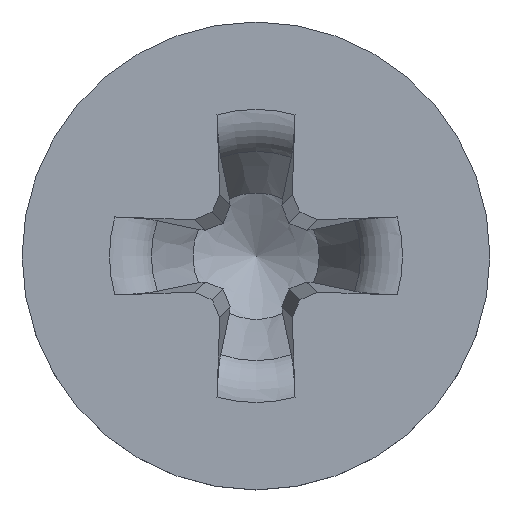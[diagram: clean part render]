
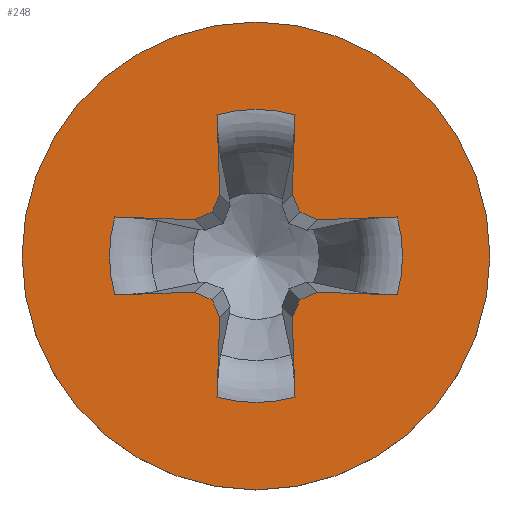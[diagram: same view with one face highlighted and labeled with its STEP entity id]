
A CAD part, top view. The second image highlights one B-rep face of the part: STEP entity #248.
In plain terms, the highlighted planar face has unit normal (0, 0, 1).
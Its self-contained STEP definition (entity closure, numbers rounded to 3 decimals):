
#73=PLANE('',#1237);
#91=LINE('',#2823,#154);
#92=LINE('',#2828,#155);
#93=LINE('',#2830,#156);
#94=LINE('',#2832,#157);
#95=LINE('',#2834,#158);
#96=LINE('',#2838,#159);
#97=LINE('',#2840,#160);
#98=LINE('',#2842,#161);
#99=LINE('',#2844,#162);
#100=LINE('',#2848,#163);
#101=LINE('',#2850,#164);
#102=LINE('',#2852,#165);
#103=LINE('',#2854,#166);
#104=LINE('',#2858,#167);
#105=LINE('',#2860,#168);
#106=LINE('',#2862,#169);
#154=VECTOR('',#1299,1.);
#155=VECTOR('',#1302,1.);
#156=VECTOR('',#1303,1.);
#157=VECTOR('',#1304,1.);
#158=VECTOR('',#1305,1.);
#159=VECTOR('',#1308,1.);
#160=VECTOR('',#1309,1.);
#161=VECTOR('',#1310,1.);
#162=VECTOR('',#1311,1.);
#163=VECTOR('',#1314,1.);
#164=VECTOR('',#1315,1.);
#165=VECTOR('',#1316,1.);
#166=VECTOR('',#1317,1.);
#167=VECTOR('',#1320,1.);
#168=VECTOR('',#1321,1.);
#169=VECTOR('',#1322,1.);
#225=FACE_BOUND('',#391,.T.);
#226=FACE_BOUND('',#392,.T.);
#248=ADVANCED_FACE('',(#225,#226),#73,.F.);
#391=EDGE_LOOP('',(#523));
#392=EDGE_LOOP('',(#524,#525,#526,#527,#528,#529,#530,#531,#532,#533,#534,
#535,#536,#537,#538,#539,#540,#541,#542,#543));
#470=CIRCLE('',#1232,1.5);
#471=CIRCLE('',#1233,0.94);
#472=CIRCLE('',#1234,0.94);
#473=CIRCLE('',#1235,0.94);
#474=CIRCLE('',#1236,0.94);
#523=ORIENTED_EDGE('',*,*,#988,.T.);
#524=ORIENTED_EDGE('',*,*,#989,.F.);
#525=ORIENTED_EDGE('',*,*,#990,.T.);
#526=ORIENTED_EDGE('',*,*,#991,.F.);
#527=ORIENTED_EDGE('',*,*,#992,.F.);
#528=ORIENTED_EDGE('',*,*,#993,.F.);
#529=ORIENTED_EDGE('',*,*,#994,.F.);
#530=ORIENTED_EDGE('',*,*,#995,.T.);
#531=ORIENTED_EDGE('',*,*,#996,.F.);
#532=ORIENTED_EDGE('',*,*,#997,.F.);
#533=ORIENTED_EDGE('',*,*,#998,.F.);
#534=ORIENTED_EDGE('',*,*,#999,.F.);
#535=ORIENTED_EDGE('',*,*,#1000,.T.);
#536=ORIENTED_EDGE('',*,*,#1001,.F.);
#537=ORIENTED_EDGE('',*,*,#1002,.F.);
#538=ORIENTED_EDGE('',*,*,#1003,.F.);
#539=ORIENTED_EDGE('',*,*,#1004,.F.);
#540=ORIENTED_EDGE('',*,*,#1005,.T.);
#541=ORIENTED_EDGE('',*,*,#1006,.F.);
#542=ORIENTED_EDGE('',*,*,#1007,.F.);
#543=ORIENTED_EDGE('',*,*,#1008,.F.);
#873=VERTEX_POINT('',#2822);
#874=VERTEX_POINT('',#2824);
#875=VERTEX_POINT('',#2825);
#876=VERTEX_POINT('',#2827);
#877=VERTEX_POINT('',#2829);
#878=VERTEX_POINT('',#2831);
#879=VERTEX_POINT('',#2833);
#880=VERTEX_POINT('',#2835);
#881=VERTEX_POINT('',#2837);
#882=VERTEX_POINT('',#2839);
#883=VERTEX_POINT('',#2841);
#884=VERTEX_POINT('',#2843);
#885=VERTEX_POINT('',#2845);
#886=VERTEX_POINT('',#2847);
#887=VERTEX_POINT('',#2849);
#888=VERTEX_POINT('',#2851);
#889=VERTEX_POINT('',#2853);
#890=VERTEX_POINT('',#2855);
#891=VERTEX_POINT('',#2857);
#892=VERTEX_POINT('',#2859);
#893=VERTEX_POINT('',#2861);
#988=EDGE_CURVE('',#873,#873,#470,.T.);
#989=EDGE_CURVE('',#874,#875,#91,.T.);
#990=EDGE_CURVE('',#874,#876,#471,.T.);
#991=EDGE_CURVE('',#877,#876,#92,.T.);
#992=EDGE_CURVE('',#878,#877,#93,.T.);
#993=EDGE_CURVE('',#879,#878,#94,.T.);
#994=EDGE_CURVE('',#880,#879,#95,.T.);
#995=EDGE_CURVE('',#880,#881,#472,.T.);
#996=EDGE_CURVE('',#882,#881,#96,.T.);
#997=EDGE_CURVE('',#883,#882,#97,.T.);
#998=EDGE_CURVE('',#884,#883,#98,.T.);
#999=EDGE_CURVE('',#885,#884,#99,.T.);
#1000=EDGE_CURVE('',#885,#886,#473,.T.);
#1001=EDGE_CURVE('',#887,#886,#100,.T.);
#1002=EDGE_CURVE('',#888,#887,#101,.T.);
#1003=EDGE_CURVE('',#889,#888,#102,.T.);
#1004=EDGE_CURVE('',#890,#889,#103,.T.);
#1005=EDGE_CURVE('',#890,#891,#474,.T.);
#1006=EDGE_CURVE('',#892,#891,#104,.T.);
#1007=EDGE_CURVE('',#893,#892,#105,.T.);
#1008=EDGE_CURVE('',#875,#893,#106,.T.);
#1232=AXIS2_PLACEMENT_3D('',#2821,#1297,#1298);
#1233=AXIS2_PLACEMENT_3D('',#2826,#1300,#1301);
#1234=AXIS2_PLACEMENT_3D('',#2836,#1306,#1307);
#1235=AXIS2_PLACEMENT_3D('',#2846,#1312,#1313);
#1236=AXIS2_PLACEMENT_3D('',#2856,#1318,#1319);
#1237=AXIS2_PLACEMENT_3D('',#2863,#1323,#1324);
#1297=DIRECTION('',(0.,0.,1.));
#1298=DIRECTION('',(1.,0.,0.));
#1299=DIRECTION('',(-0.999,-0.035,0.));
#1300=DIRECTION('',(0.,0.,-1.));
#1301=DIRECTION('',(-1.,0.,0.));
#1302=DIRECTION('',(0.999,-0.035,0.));
#1303=DIRECTION('',(0.921,0.391,0.));
#1304=DIRECTION('',(0.391,0.921,0.));
#1305=DIRECTION('',(-0.035,0.999,0.));
#1306=DIRECTION('',(0.,0.,-1.));
#1307=DIRECTION('',(-1.,0.,0.));
#1308=DIRECTION('',(-0.035,-0.999,0.));
#1309=DIRECTION('',(0.391,-0.921,0.));
#1310=DIRECTION('',(0.921,-0.391,0.));
#1311=DIRECTION('',(0.999,0.035,0.));
#1312=DIRECTION('',(0.,0.,-1.));
#1313=DIRECTION('',(-1.,0.,0.));
#1314=DIRECTION('',(-0.999,0.035,0.));
#1315=DIRECTION('',(-0.921,-0.391,0.));
#1316=DIRECTION('',(-0.391,-0.921,0.));
#1317=DIRECTION('',(0.035,-0.999,0.));
#1318=DIRECTION('',(0.,0.,-1.));
#1319=DIRECTION('',(-1.,0.,0.));
#1320=DIRECTION('',(0.035,0.999,0.));
#1321=DIRECTION('',(-0.391,0.921,0.));
#1322=DIRECTION('',(-0.921,0.391,0.));
#1323=DIRECTION('',(0.,0.,-1.));
#1324=DIRECTION('',(-1.,0.,0.));
#2821=CARTESIAN_POINT('',(0.,0.,1.17));
#2822=CARTESIAN_POINT('',(1.5,0.,1.17));
#2823=CARTESIAN_POINT('',(0.045,0.22,1.17));
#2824=CARTESIAN_POINT('',(0.906,0.25,1.17));
#2825=CARTESIAN_POINT('',(0.396,0.232,1.17));
#2826=CARTESIAN_POINT('',(0.,0.,1.17));
#2827=CARTESIAN_POINT('',(0.906,-0.25,1.17));
#2828=CARTESIAN_POINT('',(-0.06,-0.216,1.17));
#2829=CARTESIAN_POINT('',(0.396,-0.232,1.17));
#2830=CARTESIAN_POINT('',(0.684,-0.11,1.17));
#2831=CARTESIAN_POINT('',(0.281,-0.281,1.17));
#2832=CARTESIAN_POINT('',(0.879,1.127,1.17));
#2833=CARTESIAN_POINT('',(0.232,-0.396,1.17));
#2834=CARTESIAN_POINT('',(0.166,1.506,1.17));
#2835=CARTESIAN_POINT('',(0.25,-0.906,1.17));
#2836=CARTESIAN_POINT('',(0.,0.,1.17));
#2837=CARTESIAN_POINT('',(-0.25,-0.906,1.17));
#2838=CARTESIAN_POINT('',(-0.166,1.506,1.17));
#2839=CARTESIAN_POINT('',(-0.232,-0.396,1.17));
#2840=CARTESIAN_POINT('',(-0.879,1.127,1.17));
#2841=CARTESIAN_POINT('',(-0.281,-0.281,1.17));
#2842=CARTESIAN_POINT('',(-0.684,-0.11,1.17));
#2843=CARTESIAN_POINT('',(-0.396,-0.232,1.17));
#2844=CARTESIAN_POINT('',(0.06,-0.216,1.17));
#2845=CARTESIAN_POINT('',(-0.906,-0.25,1.17));
#2846=CARTESIAN_POINT('',(0.,0.,1.17));
#2847=CARTESIAN_POINT('',(-0.906,0.25,1.17));
#2848=CARTESIAN_POINT('',(-0.045,0.22,1.17));
#2849=CARTESIAN_POINT('',(-0.396,0.232,1.17));
#2850=CARTESIAN_POINT('',(0.395,0.568,1.17));
#2851=CARTESIAN_POINT('',(-0.281,0.281,1.17));
#2852=CARTESIAN_POINT('',(0.2,1.415,1.17));
#2853=CARTESIAN_POINT('',(-0.232,0.396,1.17));
#2854=CARTESIAN_POINT('',(-0.27,1.491,1.17));
#2855=CARTESIAN_POINT('',(-0.25,0.906,1.17));
#2856=CARTESIAN_POINT('',(0.,0.,1.17));
#2857=CARTESIAN_POINT('',(0.25,0.906,1.17));
#2858=CARTESIAN_POINT('',(0.27,1.491,1.17));
#2859=CARTESIAN_POINT('',(0.232,0.396,1.17));
#2860=CARTESIAN_POINT('',(-0.2,1.415,1.17));
#2861=CARTESIAN_POINT('',(0.281,0.281,1.17));
#2862=CARTESIAN_POINT('',(-0.395,0.568,1.17));
#2863=CARTESIAN_POINT('',(0.,1.5,1.17));
